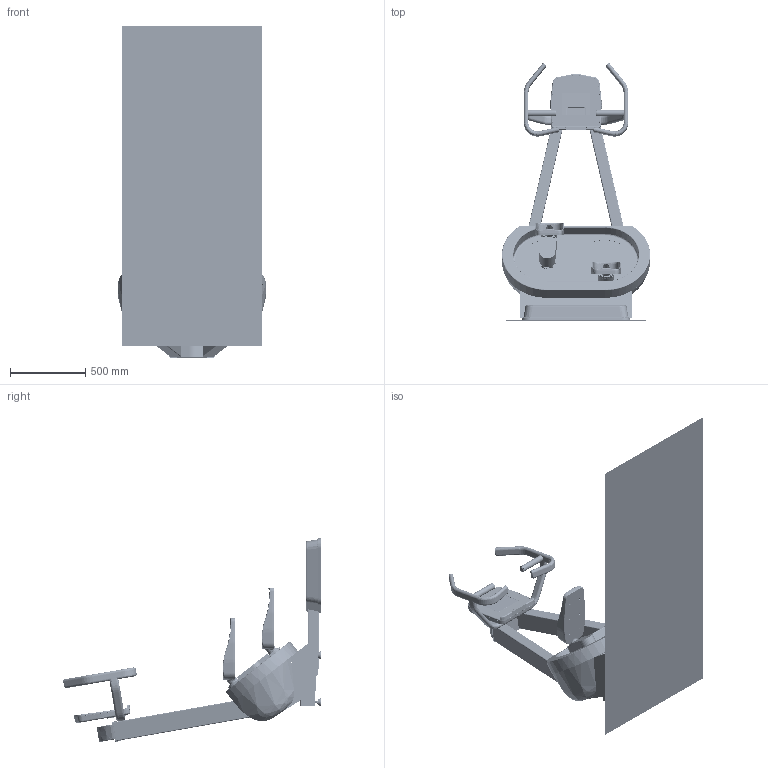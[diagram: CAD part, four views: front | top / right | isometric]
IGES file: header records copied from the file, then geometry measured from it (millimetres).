
Start section: SolidWorks IGES file using analytic representation for surfaces
Global section: file name: D:\SolidWorks_files\SERIOUSFITNESS\USA_PARTS\GrabCAD_FILE_EXPORTS\MR04_TILTED_03-06-2015_A.IGS; native system: SolidWorks 2014; preprocessor: SolidWorks 2014; author: Andrew_Grove; date: 150306.084859; units: millimetre
Bounding box: 981.38 x 1705.55 x 2199.79 mm (x, y, z)
Surface area: 12736420.7 mm2 (no closed solid volume)
Topology: 0 solids, 0 shells, 4552 faces, 67542 edges, 67470 vertices
Faces by surface type: bspline 2475, revolution 2077
